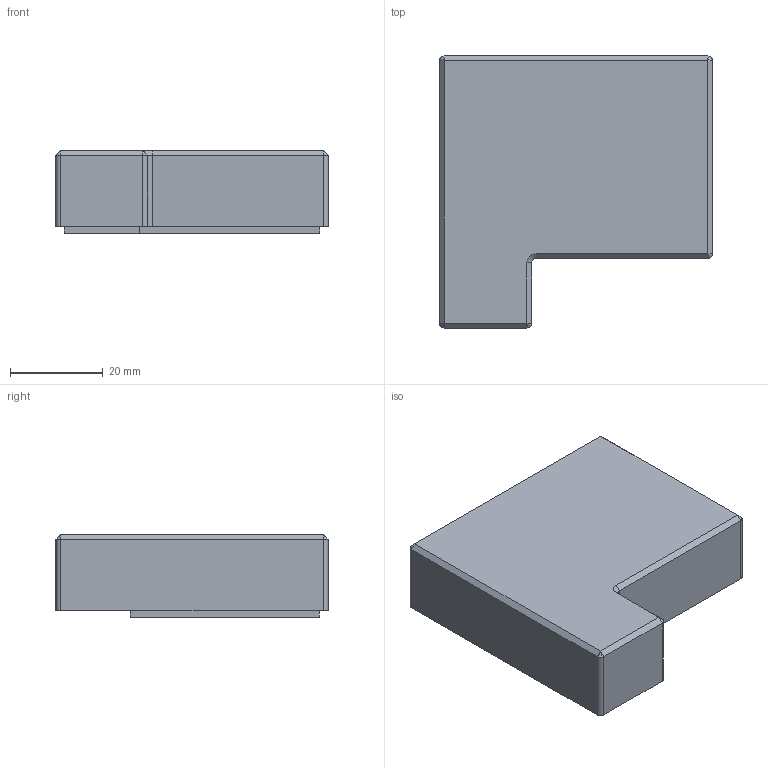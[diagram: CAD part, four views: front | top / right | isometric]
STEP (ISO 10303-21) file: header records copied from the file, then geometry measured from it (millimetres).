
FILE_DESCRIPTION(('FreeCAD Model'),'2;1');
FILE_NAME('Open CASCADE Shape Model','2023-11-15T18:34:09',(''),(''), 'Open CASCADE STEP processor 7.6','FreeCAD','Unknown');
FILE_SCHEMA(('AUTOMOTIVE_DESIGN { 1 0 10303 214 1 1 1 1 }'));
Length unit declared in the file: millimetre
Products named in the file (1): UpperPart
Bounding box: 58.7 x 58.55 x 17.75 mm (x, y, z)
Volume: 13032.8 mm3; surface area: 11867 mm2
Topology: 1 solids, 1 shells, 60 faces, 154 edges, 93 vertices
Faces by surface type: plane 42, cylinder 10, cone 7, torus 1
Full cylindrical faces by diameter (mm): 2.8 x1, 10 x1
Entity records: 3742 total; most frequent: CARTESIAN_POINT 667, DIRECTION 587, LINE 398, VECTOR 398, ORIENTED_EDGE 298, PCURVE 298, DEFINITIONAL_REPRESENTATION 298, EDGE_CURVE 149
